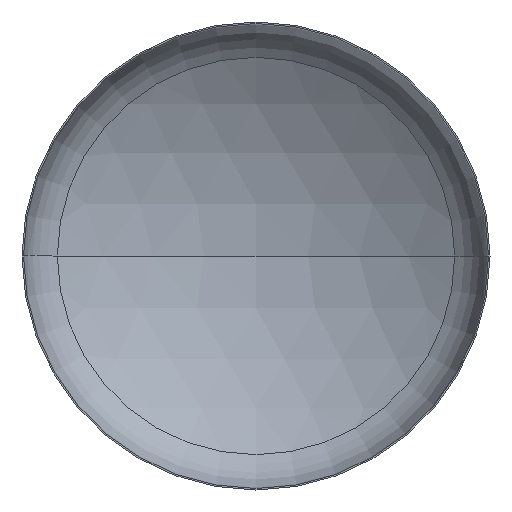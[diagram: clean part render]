
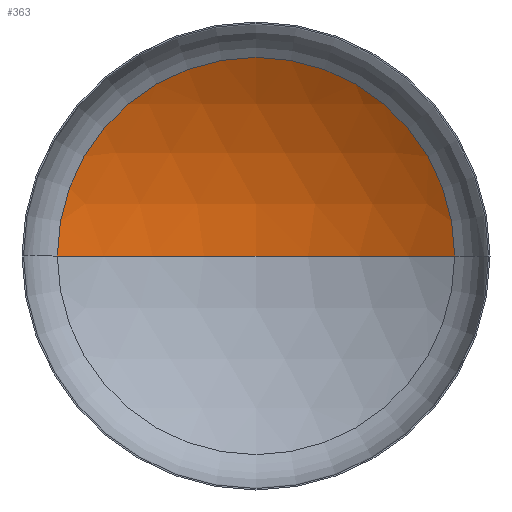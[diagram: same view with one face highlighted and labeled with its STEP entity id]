
A CAD part, front view. The second image highlights one B-rep face of the part: STEP entity #363.
In plain terms, the highlighted spherical face has radius 5600 mm.
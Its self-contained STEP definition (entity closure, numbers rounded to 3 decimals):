
#7 = AXIS2_PLACEMENT_3D ( 'NONE', #407, #101, #98 ) ;
#15 = VERTEX_POINT ( 'NONE', #350 ) ;
#85 = VERTEX_POINT ( 'NONE', #219 ) ;
#86 = VERTEX_POINT ( 'NONE', #217 ) ;
#95 = ORIENTED_EDGE ( 'NONE', *, *, #228, .T. ) ;
#98 = DIRECTION ( 'NONE',  ( -1., 0., 0. ) ) ;
#99 = AXIS2_PLACEMENT_3D ( 'NONE', #264, #225, #224 ) ;
#101 = DIRECTION ( 'NONE',  ( 0., 0., -1. ) ) ;
#103 = AXIS2_PLACEMENT_3D ( 'NONE', #249, #247, #244 ) ;
#107 = EDGE_LOOP ( 'NONE', ( #189, #109, #95 ) ) ;
#109 = ORIENTED_EDGE ( 'NONE', *, *, #232, .T. ) ;
#118 = CIRCLE ( 'NONE', #99, 5600. ) ;
#122 = AXIS2_PLACEMENT_3D ( 'NONE', #181, #182, #203 ) ;
#181 = CARTESIAN_POINT ( 'NONE',  ( 0., 985.479, 0. ) ) ;
#182 = DIRECTION ( 'NONE',  ( 0., -1., 0. ) ) ;
#189 = ORIENTED_EDGE ( 'NONE', *, *, #234, .F. ) ;
#203 = DIRECTION ( 'NONE',  ( 1., 0., 0. ) ) ;
#217 = CARTESIAN_POINT ( 'NONE',  ( -2970.973, 985.479, 0. ) ) ;
#219 = CARTESIAN_POINT ( 'NONE',  ( 0., 1838.552, 0. ) ) ;
#224 = DIRECTION ( 'NONE',  ( 1., 0., 0. ) ) ;
#225 = DIRECTION ( 'NONE',  ( 0., 0., 1. ) ) ;
#228 = EDGE_CURVE ( 'NONE', #15, #86, #357, .T. ) ;
#232 = EDGE_CURVE ( 'NONE', #85, #15, #296, .T. ) ;
#234 = EDGE_CURVE ( 'NONE', #85, #86, #118, .T. ) ;
#244 = DIRECTION ( 'NONE',  ( -1., 0., 0. ) ) ;
#247 = DIRECTION ( 'NONE',  ( 0., 0., -1. ) ) ;
#249 = CARTESIAN_POINT ( 'NONE',  ( 0., -3761.448, 0. ) ) ;
#264 = CARTESIAN_POINT ( 'NONE',  ( 0., -3761.448, 0. ) ) ;
#296 = CIRCLE ( 'NONE', #103, 5600. ) ;
#341 = FACE_OUTER_BOUND ( 'NONE', #107, .T. ) ;
#350 = CARTESIAN_POINT ( 'NONE',  ( 2970.973, 985.479, 0. ) ) ;
#357 = CIRCLE ( 'NONE', #122, 2970.973 ) ;
#363 = ADVANCED_FACE ( 'NONE', ( #341 ), #388, .F. ) ;
#388 = SPHERICAL_SURFACE ( 'NONE', #7, 5600. ) ;
#407 = CARTESIAN_POINT ( 'NONE',  ( 0., -3761.448, 0. ) ) ;
